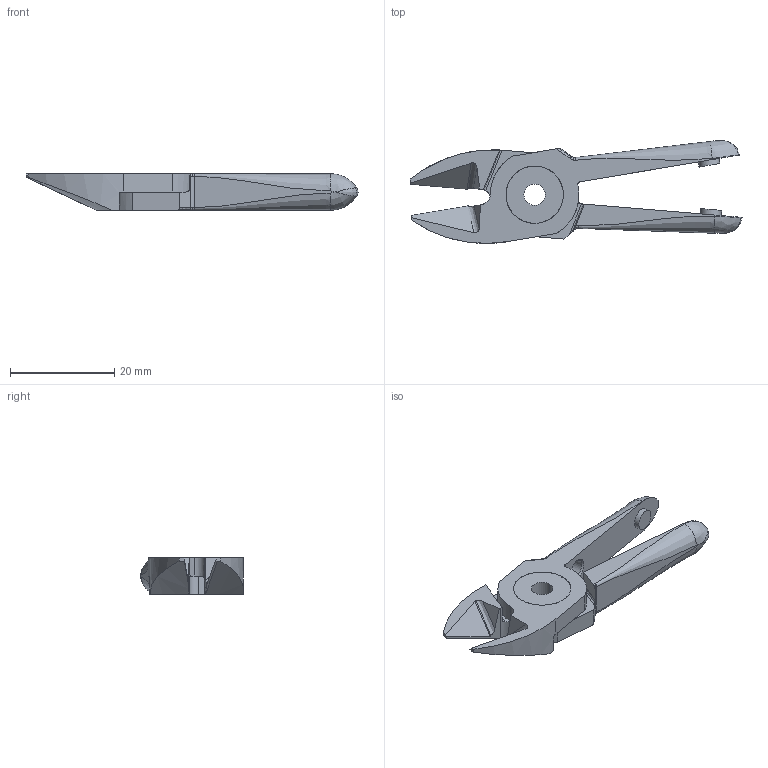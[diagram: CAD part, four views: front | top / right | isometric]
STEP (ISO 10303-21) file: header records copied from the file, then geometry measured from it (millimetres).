
FILE_DESCRIPTION (( 'STEP AP214' ), '1' );
FILE_NAME ('N3AS.STEP', '2019-11-29T01:36:29', ( '微软用户' ), ( '微软中国' ), 'SwSTEP 2.0', 'SolidWorks 2016', '' );
FILE_SCHEMA (( 'AUTOMOTIVE_DESIGN' ));
Length unit declared in the file: millimetre
Products named in the file (4): N3AS; BS; BR2; BR1
Assembly tree (3 placements, depth 2):
  N3AS
    BR1
    BR2
    BS
Bounding box: 63.69 x 19.74 x 7 mm (x, y, z)
Volume: 3792 mm3; surface area: 3715 mm2
Topology: 3 solids, 3 shells, 129 faces, 335 edges, 210 vertices
Faces by surface type: bspline 67, plane 41, cylinder 17, cone 4
Entity records: 10400 total; most frequent: CARTESIAN_POINT 7729, ORIENTED_EDGE 658, DIRECTION 338, EDGE_CURVE 329, VERTEX_POINT 210, VECTOR 142, LINE 142, EDGE_LOOP 139
